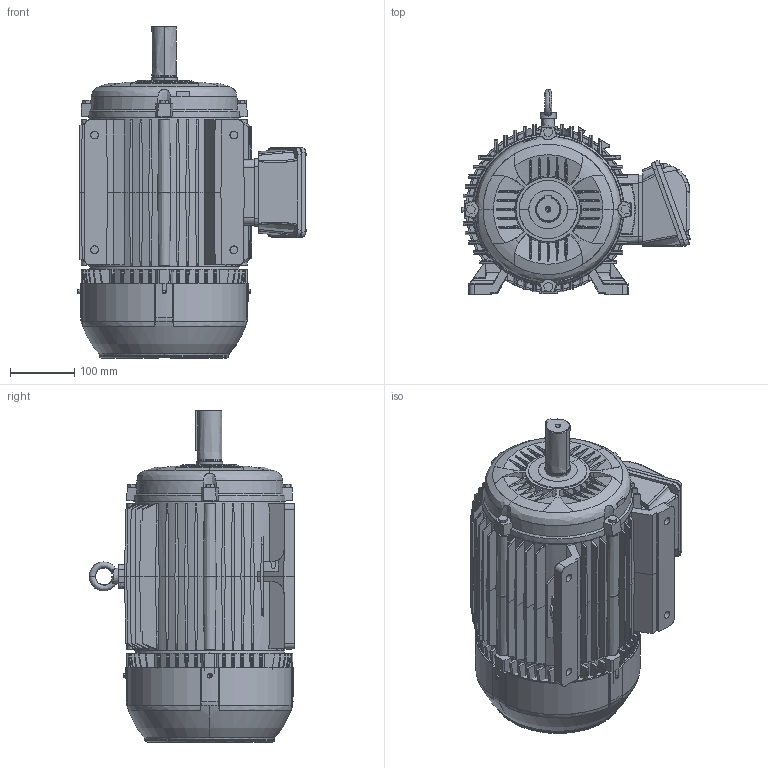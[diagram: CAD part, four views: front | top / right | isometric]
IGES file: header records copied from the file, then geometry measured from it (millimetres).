
Start section: SolidWorks IGES file using analytic representation for surfaces
Global section: file name: C:\Users\jean2\Desktop\W22_GENERAL_PURPOSE\17_FRAME_L132M\STANDARD\IGS\L132M_RIGHT.IGS; native system: SolidWorks 2016; preprocessor: SolidWorks 2016; author: jean2; date: 160920.103417; units: millimetre
Bounding box: 354.05 x 319 x 515 mm (x, y, z)
Surface area: 1223272.2 mm2 (no closed solid volume)
Topology: 0 solids, 0 shells, 3297 faces, 26005 edges, 25984 vertices
Faces by surface type: bspline 2563, revolution 734
